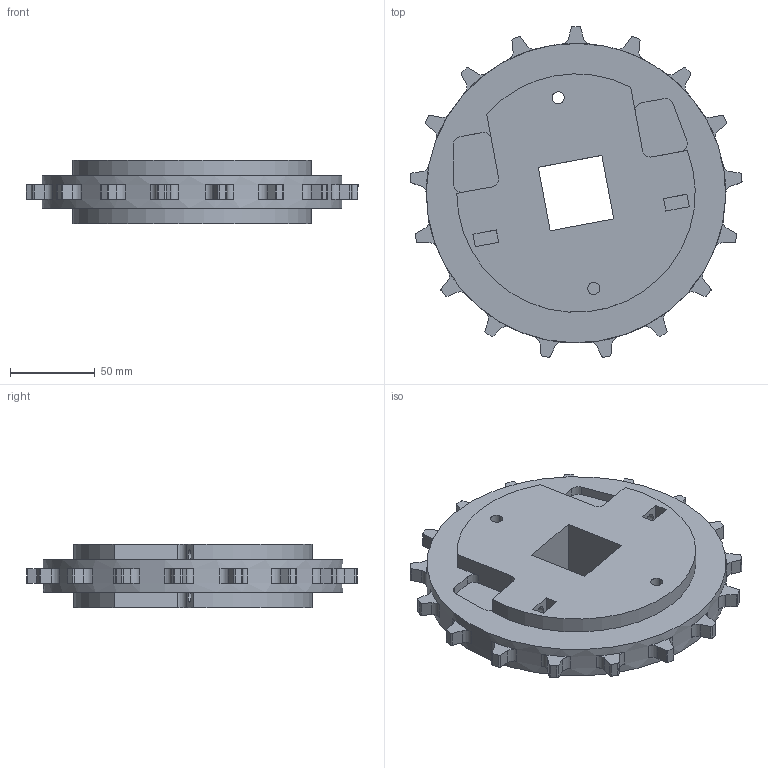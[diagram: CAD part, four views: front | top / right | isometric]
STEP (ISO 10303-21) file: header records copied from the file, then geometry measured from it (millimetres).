
FILE_DESCRIPTION((''),'2;1');
FILE_NAME('S1200_SPLIT_79X15_60_SQ','2008-12-12T',('jmumphre'),(''),'PRO/ENGINEER BY PARAMETRIC TECHNOLOGY CORPORATION, 2008150','PRO/ENGINEER BY PARAMETRIC TECHNOLOGY CORPORATION, 2008150','');
FILE_SCHEMA(('CONFIG_CONTROL_DESIGN'));
Length unit declared in the file: inch
Products named in the file (1): S1200_SPLIT_79X15_60_SQ
Bounding box: 195.7 x 194.88 x 37.59 mm (x, y, z)
Volume: 654657.3 mm3; surface area: 83763.8 mm2
Topology: 1 solids, 1 shells, 236 faces, 630 edges, 420 vertices
Faces by surface type: plane 134, cylinder 102
Entity records: 7496 total; most frequent: DIRECTION 1340, CARTESIAN_POINT 1286, ORIENTED_EDGE 1260, EDGE_CURVE 630, AXIS2_PLACEMENT_3D 474, VERTEX_POINT 420, VECTOR 392, LINE 392
